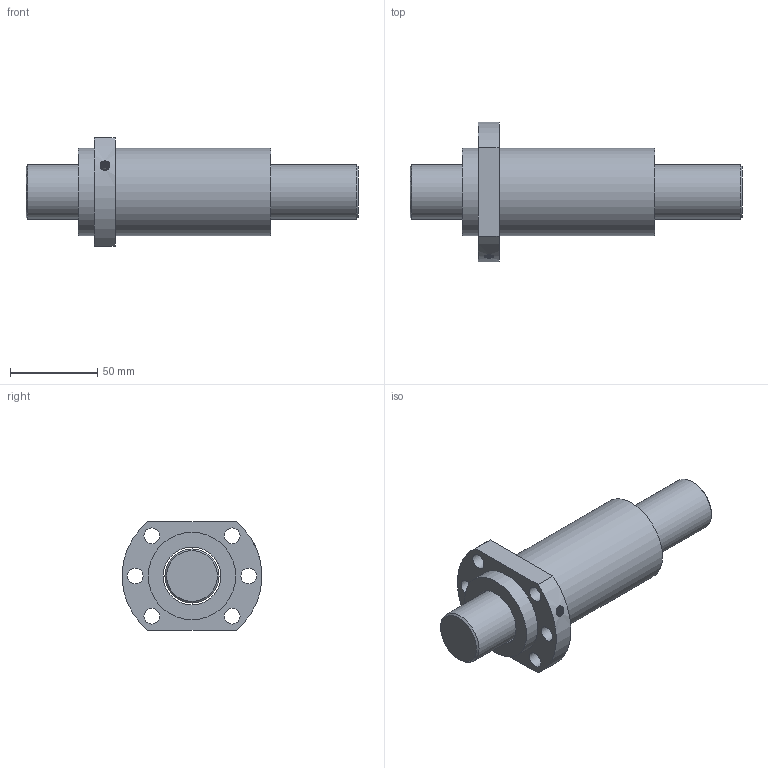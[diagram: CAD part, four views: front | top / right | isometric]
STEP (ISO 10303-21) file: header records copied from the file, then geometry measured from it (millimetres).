
FILE_DESCRIPTION(/* description */ ('Unknown','CAx-IF Rec.Pracs.---Representation and Presentation of Product Manufacturing Information (PMI)---4.0---2014-10-13','CAx-IF Rec.Pracs.---3D Tessellated Geometry---0.4---2014-09-14','2;1'),/* implementation_level */ '2;1');
FILE_NAME(/* name */ 'SFA3232-2.8',/* time_stamp */ '2020-12-08T09:02:07+08:00',/* author */ ('Unknown'),/* organization */ ('Unknown'),/* preprocessor_version */ 'ST-DEVELOPER v16.7',/* originating_system */ 'Solid Edge',/* authorisation */ 'Unknown');
FILE_SCHEMA (('AP242_MANAGED_MODEL_BASED_3D_ENGINEERING_MIM_LF { 1 0 10303 442 1 1 4 }'));
Length unit declared in the file: millimetre
Products named in the file (1): SFA3232-2.8
Bounding box: 190 x 79.74 x 62 mm (x, y, z)
Volume: 289548.8 mm3; surface area: 58372.7 mm2
Topology: 2 solids, 2 shells, 28 faces, 65 edges, 44 vertices
Faces by surface type: cylinder 15, plane 9, bspline 2, cone 2
Full cylindrical faces by diameter (mm): 4 x1, 9 x6, 31 x1, 33 x1, 50 x2
Entity records: 3237 total; most frequent: CARTESIAN_POINT 2566, DIRECTION 126, ORIENTED_EDGE 96, EDGE_LOOP 60, FACE_BOUND 60, AXIS2_PLACEMENT_3D 60, EDGE_CURVE 48, VERTEX_POINT 40
